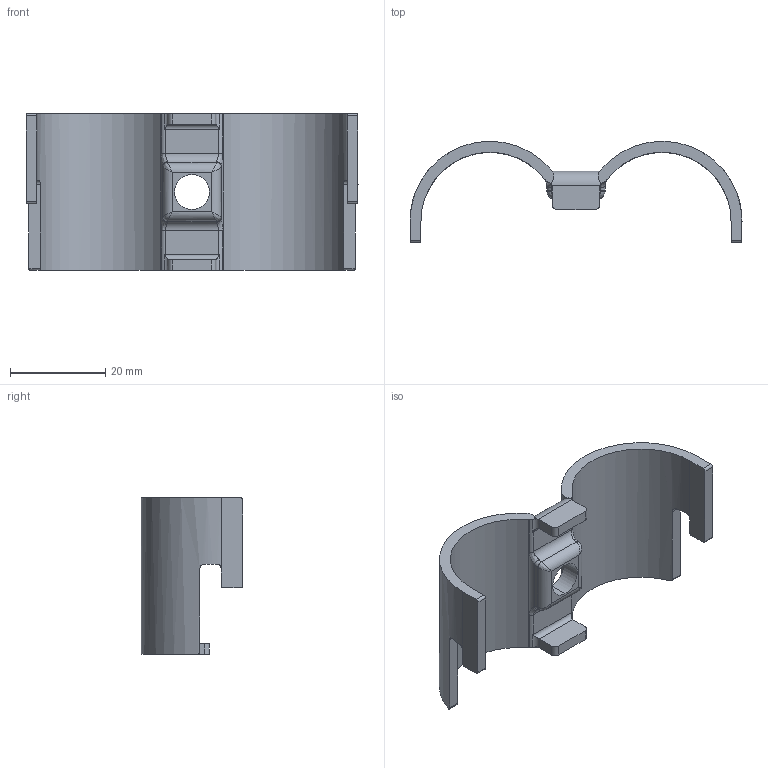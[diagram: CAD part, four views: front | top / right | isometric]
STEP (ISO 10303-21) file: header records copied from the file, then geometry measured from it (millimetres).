
FILE_DESCRIPTION (( 'STEP AP203' ), '1' );
FILE_NAME ('015.100.028.STEP', '2016-10-24T07:39:39', ( '' ), ( '' ), 'SwSTEP 2.0', 'SolidWorks 2016', '' );
FILE_SCHEMA (( 'CONFIG_CONTROL_DESIGN' ));
Length unit declared in the file: millimetre
Products named in the file (1): 015.100.028
Bounding box: 69.8 x 21.3 x 33 mm (x, y, z)
Volume: 7167.3 mm3; surface area: 6958.7 mm2
Topology: 1 solids, 1 shells, 110 faces, 300 edges, 188 vertices
Faces by surface type: cylinder 52, plane 38, bspline 12, torus 8
Entity records: 4061 total; most frequent: CARTESIAN_POINT 1333, ORIENTED_EDGE 592, DIRECTION 526, EDGE_CURVE 296, AXIS2_PLACEMENT_3D 197, VERTEX_POINT 188, LINE 132, VECTOR 132
